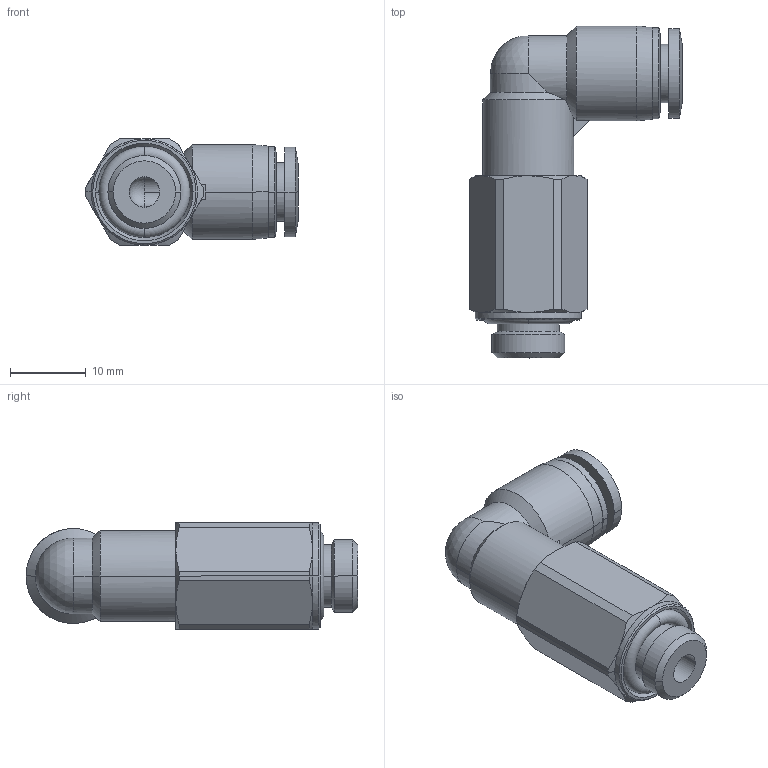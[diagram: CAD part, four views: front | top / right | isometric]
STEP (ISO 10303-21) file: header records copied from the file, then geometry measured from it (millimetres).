
FILE_DESCRIPTION (( 'STEP AP203' ), '1' );
FILE_NAME ('FLL06-01.STEP', '2020-05-13T11:06:43', ( '' ), ( '' ), 'SwSTEP 2.0', 'SolidWorks 2019', '' );
FILE_SCHEMA (( 'CONFIG_CONTROL_DESIGN' ));
Length unit declared in the file: millimetre
Products named in the file (1): FLL06-01
Bounding box: 28.05 x 43.75 x 14 mm (x, y, z)
Surface area: 3765.6 mm2 (no closed solid volume)
Topology: 0 solids, 4 shells, 93 faces, 223 edges, 138 vertices
Faces by surface type: cylinder 34, cone 32, plane 19, torus 4, bspline 2, sphere 2
Entity records: 4339 total; most frequent: CARTESIAN_POINT 2494, ORIENTED_EDGE 424, DIRECTION 236, EDGE_CURVE 220, B_SPLINE_CURVE_WITH_KNOTS 166, VERTEX_POINT 137, EDGE_LOOP 103, AXIS2_PLACEMENT_3D 96
